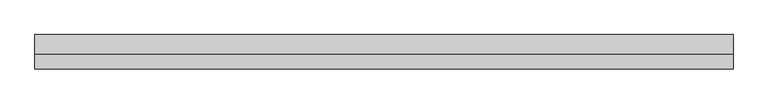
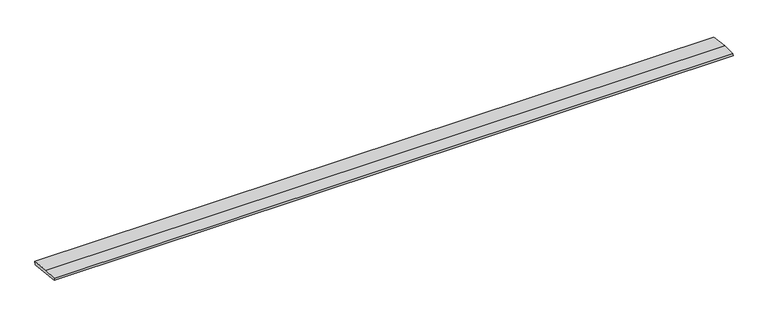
"""IFC4 building model written with IfcOpenShell, lengths in millimetres: beam geometry, weatherboad : weatherboad."""

from ifc_helpers import new_model, si_unit, frame, origin, place, context, project, spatial, polyline, outline, extrude, source, transform, mapped, element, save


def beam_b49289d9(model_context):
    return source(origin(), model_context, "Body", "SweptSolid", [
        extrude(outline(polyline([(0.0, -9.143159), (1.1226388, 0.0), (79.0749747, 0.0), (180.9387048, -12.5072934), (178.6231873, -31.3656703), (0.0, -9.143159)])), frame((-1836.1852258, 0.0, 0.0), z_axis=(1.0, 0.0, 0.0), x_axis=(0.0, 1.0, 0.0)), (0.0, 0.0, 1.0), 3672.3704516),
    ])


if __name__ == "__main__":
    model = new_model("IFC4")
    model_context = context("Model", 3, world=origin())
    ifc_project = project(units=[si_unit("LENGTHUNIT", "METRE", prefix="MILLI")], contexts=[model_context])
    site = spatial("IfcSite", under=ifc_project)
    building = spatial("IfcBuilding", under=site)
    placement = place(None, origin())
    beam_shape = beam_b49289d9(model_context)
    element("IfcBeam", 1, ObjectType="weatherboad : weatherboad", at=placement, inside=building, context=model_context, shape_type="MappedRepresentation", body=[
        mapped(beam_shape, transform((0.0, 0.0, 0.0), x_axis=(1.0, 0.0, 0.0), y_axis=(0.0, 1.0, 0.0), z_axis=(0.0, 0.0, 1.0))),
    ])
    save(model, "model.ifc")
